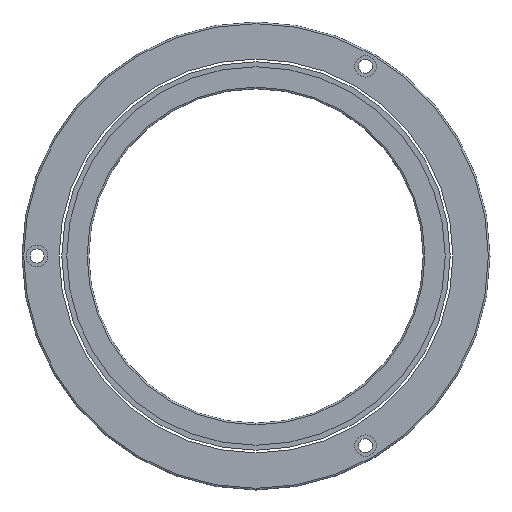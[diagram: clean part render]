
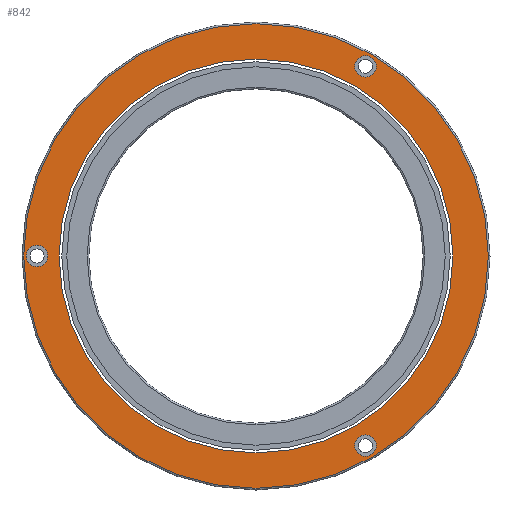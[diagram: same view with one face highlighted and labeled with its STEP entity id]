
A CAD part, front view. The second image highlights one B-rep face of the part: STEP entity #842.
In plain terms, the highlighted planar face has unit normal (0, -1, 0).
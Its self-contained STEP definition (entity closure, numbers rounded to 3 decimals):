
#61=CARTESIAN_POINT('',(0.,0.,0.));
#62=DIRECTION('',(0.,-1.,0.));
#63=DIRECTION('',(-1.,0.,0.));
#64=AXIS2_PLACEMENT_3D('',#61,#62,#63);
#66=CARTESIAN_POINT('',(0.,0.,0.));
#67=DIRECTION('',(0.,1.,0.));
#68=DIRECTION('',(-1.,0.,0.));
#69=AXIS2_PLACEMENT_3D('',#66,#67,#68);
#71=CARTESIAN_POINT('',(-65.5,0.,0.));
#72=DIRECTION('',(0.,1.,0.));
#73=DIRECTION('',(1.,0.,0.));
#74=AXIS2_PLACEMENT_3D('',#71,#72,#73);
#76=CARTESIAN_POINT('',(-65.5,0.,0.));
#77=DIRECTION('',(0.,1.,0.));
#78=DIRECTION('',(-1.,0.,0.));
#79=AXIS2_PLACEMENT_3D('',#76,#77,#78);
#81=CARTESIAN_POINT('',(32.75,0.,56.725));
#82=DIRECTION('',(0.,1.,0.));
#83=DIRECTION('',(-0.5,0.,-0.866));
#84=AXIS2_PLACEMENT_3D('',#81,#82,#83);
#86=CARTESIAN_POINT('',(32.75,0.,56.725));
#87=DIRECTION('',(0.,1.,0.));
#88=DIRECTION('',(0.5,0.,0.866));
#89=AXIS2_PLACEMENT_3D('',#86,#87,#88);
#91=CARTESIAN_POINT('',(32.75,0.,-56.725));
#92=DIRECTION('',(0.,1.,0.));
#93=DIRECTION('',(-0.5,0.,0.866));
#94=AXIS2_PLACEMENT_3D('',#91,#92,#93);
#96=CARTESIAN_POINT('',(32.75,0.,-56.725));
#97=DIRECTION('',(0.,1.,0.));
#98=DIRECTION('',(0.5,0.,-0.866));
#99=AXIS2_PLACEMENT_3D('',#96,#97,#98);
#101=CARTESIAN_POINT('',(0.,0.,0.));
#102=DIRECTION('',(0.,1.,0.));
#103=DIRECTION('',(-1.,0.,0.));
#104=AXIS2_PLACEMENT_3D('',#101,#102,#103);
#106=CARTESIAN_POINT('',(0.,0.,0.));
#107=DIRECTION('',(0.,1.,0.));
#108=DIRECTION('',(1.,0.,0.));
#109=AXIS2_PLACEMENT_3D('',#106,#107,#108);
#667=CARTESIAN_POINT('',(-62.3,0.,0.));
#668=VERTEX_POINT('',#667);
#669=CARTESIAN_POINT('',(-68.7,0.,0.));
#670=VERTEX_POINT('',#669);
#679=CARTESIAN_POINT('',(31.15,0.,53.953));
#680=VERTEX_POINT('',#679);
#681=CARTESIAN_POINT('',(34.35,0.,59.496));
#682=VERTEX_POINT('',#681);
#691=CARTESIAN_POINT('',(31.15,0.,-53.953));
#692=VERTEX_POINT('',#691);
#693=CARTESIAN_POINT('',(34.35,0.,-59.496));
#694=VERTEX_POINT('',#693);
#712=CARTESIAN_POINT('',(-58.9,0.,0.));
#714=VERTEX_POINT('',#712);
#716=CARTESIAN_POINT('',(58.9,0.,0.));
#718=VERTEX_POINT('',#716);
#731=CARTESIAN_POINT('',(-69.5,0.,0.));
#732=CARTESIAN_POINT('',(69.5,0.,0.));
#733=VERTEX_POINT('',#731);
#734=VERTEX_POINT('',#732);
#809=CARTESIAN_POINT('',(0.,0.,0.));
#810=DIRECTION('',(0.,1.,0.));
#811=DIRECTION('',(1.,0.,0.));
#812=AXIS2_PLACEMENT_3D('',#809,#810,#811);
#813=PLANE('',#812);
#815=ORIENTED_EDGE('',*,*,#814,.T.);
#817=ORIENTED_EDGE('',*,*,#816,.T.);
#818=EDGE_LOOP('',(#815,#817));
#819=FACE_OUTER_BOUND('',#818,.F.);
#821=ORIENTED_EDGE('',*,*,#820,.F.);
#823=ORIENTED_EDGE('',*,*,#822,.F.);
#824=EDGE_LOOP('',(#821,#823));
#825=FACE_BOUND('',#824,.F.);
#827=ORIENTED_EDGE('',*,*,#826,.F.);
#829=ORIENTED_EDGE('',*,*,#828,.F.);
#830=EDGE_LOOP('',(#827,#829));
#831=FACE_BOUND('',#830,.F.);
#833=ORIENTED_EDGE('',*,*,#832,.F.);
#835=ORIENTED_EDGE('',*,*,#834,.F.);
#836=EDGE_LOOP('',(#833,#835));
#837=FACE_BOUND('',#836,.F.);
#838=ORIENTED_EDGE('',*,*,#804,.T.);
#839=ORIENTED_EDGE('',*,*,#788,.F.);
#840=EDGE_LOOP('',(#838,#839));
#841=FACE_BOUND('',#840,.F.);
#65=CIRCLE('',#64,58.9);
#70=CIRCLE('',#69,58.9);
#75=CIRCLE('',#74,3.2);
#80=CIRCLE('',#79,3.2);
#85=CIRCLE('',#84,3.2);
#90=CIRCLE('',#89,3.2);
#95=CIRCLE('',#94,3.2);
#100=CIRCLE('',#99,3.2);
#105=CIRCLE('',#104,69.5);
#110=CIRCLE('',#109,69.5);
#788=EDGE_CURVE('',#714,#718,#70,.T.);
#804=EDGE_CURVE('',#714,#718,#65,.T.);
#814=EDGE_CURVE('',#733,#734,#105,.T.);
#816=EDGE_CURVE('',#734,#733,#110,.T.);
#820=EDGE_CURVE('',#668,#670,#75,.T.);
#822=EDGE_CURVE('',#670,#668,#80,.T.);
#826=EDGE_CURVE('',#680,#682,#85,.T.);
#828=EDGE_CURVE('',#682,#680,#90,.T.);
#832=EDGE_CURVE('',#692,#694,#95,.T.);
#834=EDGE_CURVE('',#694,#692,#100,.T.);
#842=ADVANCED_FACE('',(#819,#825,#831,#837,#841),#813,.F.);
